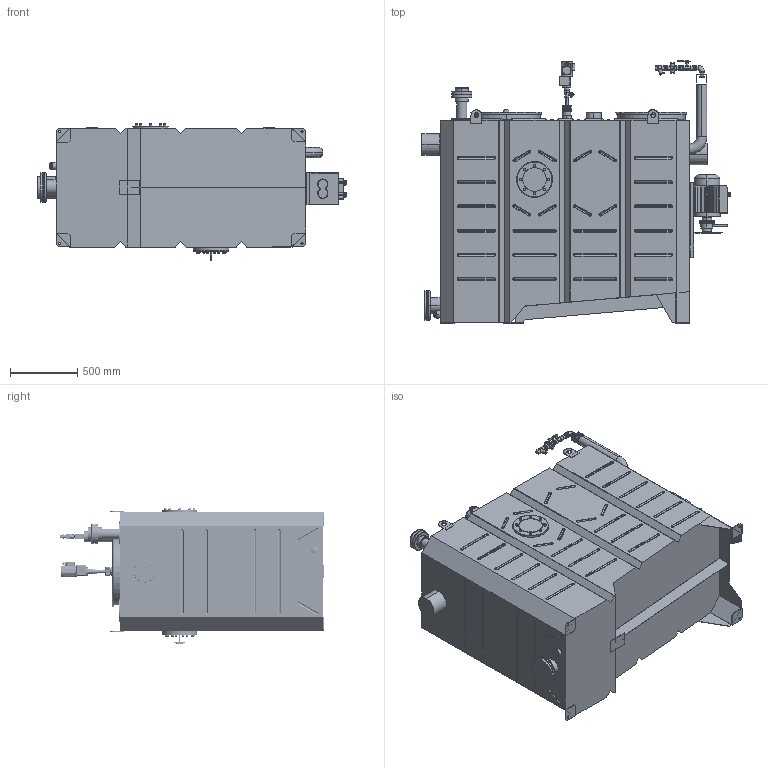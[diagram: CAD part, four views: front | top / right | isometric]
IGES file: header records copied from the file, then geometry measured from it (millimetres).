
Start section: SolidWorks IGES file using analytic representation for surfaces
Global section: file name: C:\Documents and Settings\sparagond\Desktop\75777431_OS_LEFT.IGS; native system: SolidWorks 2010; preprocessor: SolidWorks 2010; author: sparagond; date: 101222.105950; units: millimetre
Bounding box: 2290 x 1954.83 x 1010.29 mm (x, y, z)
Surface area: 14294138.9 mm2 (no closed solid volume)
Topology: 0 solids, 0 shells, 2763 faces, 33469 edges, 33401 vertices
Faces by surface type: bspline 1818, revolution 945
